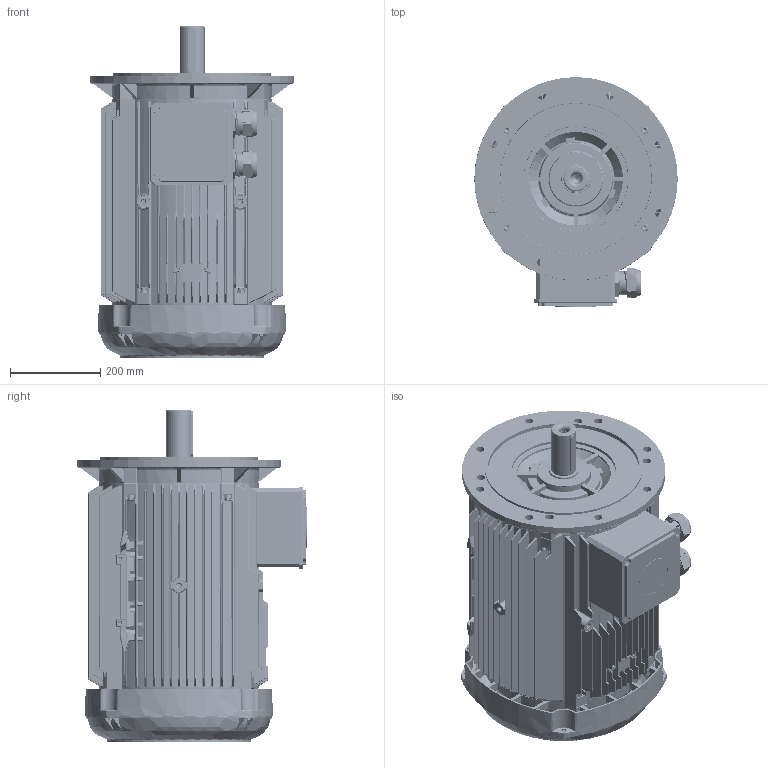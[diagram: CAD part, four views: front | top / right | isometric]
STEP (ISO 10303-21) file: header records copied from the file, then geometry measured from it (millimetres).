
FILE_DESCRIPTION(/* description */ (''),/* implementation_level */ '2;1');
FILE_NAME(/* name */ 'OUTLOOK VIEW QH225 FA B5 FF400 SPL.stp',/* time_stamp */ '2021-09-13T15:17:26+03:00',/* author */ (''),/* organization */ (''),/* preprocessor_version */ 'ST-DEVELOPER v16',/* originating_system */ 'SIEMENS PLM Software NX 11.0',/* authorisation */ '');
FILE_SCHEMA (('AUTOMOTIVE_DESIGN { 1 0 10303 214 3 1 1 1 }'));
Products named in the file (1): 26062CE45B9Cd7js
Bounding box: 450 x 508 x 735 mm (x, y, z)
Volume: 19139554.1 mm3; surface area: 4565808.2 mm2
Topology: 62 solids, 78 shells, 11565 faces, 32018 edges, 19649 vertices
Faces by surface type: plane 5259, bspline 2785, cylinder 2242, cone 600, torus 424, sphere 232, extrusion 19, revolution 4
Full cylindrical faces by diameter (mm): 3 x2, 4 x2, 5.5 x8, 5.853 x6, 6.3 x1, 7.5 x4, 8.376 x8, 10 x10, 11 x4, 16 x8, 18.25 x1, 18.5 x11, 20 x1, 21 x1, 28 x1, 32.2 x1, 39 x2, 40.1 x3, 43.7 x1, 45.5 x2, 48 x1, 49.7 x75, 54.3 x3, 54.7 x4, 55 x18, 55.1 x16, 55.3 x1, 55.9 x3, 56 x2, 56.3 x3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
Entity records: 469175 total; most frequent: CARTESIAN_POINT 210682, ORIENTED_EDGE 61776, DIRECTION 43478, EDGE_CURVE 30888, VERTEX_POINT 19540, AXIS2_PLACEMENT_3D 16024, EDGE_LOOP 13371, ADVANCED_FACE 11539
